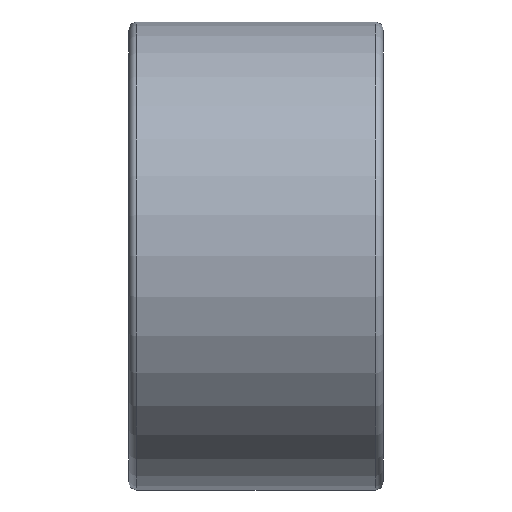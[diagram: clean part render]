
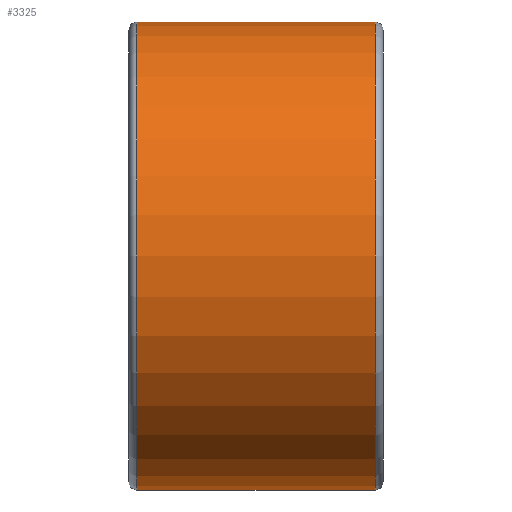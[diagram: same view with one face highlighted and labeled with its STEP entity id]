
A CAD part, front view. The second image highlights one B-rep face of the part: STEP entity #3325.
In plain terms, the highlighted cylindrical face has radius 17.5 mm (diameter 35 mm), a full revolution.
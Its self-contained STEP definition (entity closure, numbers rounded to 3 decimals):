
#684=LINE('',#9116,#824);
#824=VECTOR('',#4321,17.5);
#852=CYLINDRICAL_SURFACE('',#3696,17.5);
#1031=FACE_OUTER_BOUND('',#1220,.T.);
#1220=EDGE_LOOP('',(#3091,#3092,#3093,#3094,#3095,#3096));
#1340=CIRCLE('',#3693,17.5);
#1341=CIRCLE('',#3694,17.5);
#1343=CIRCLE('',#3697,17.5);
#1344=CIRCLE('',#3698,17.5);
#1657=VERTEX_POINT('',#9107);
#1658=VERTEX_POINT('',#9108);
#1659=VERTEX_POINT('',#9113);
#1660=VERTEX_POINT('',#9114);
#2137=EDGE_CURVE('',#1657,#1658,#1340,.T.);
#2138=EDGE_CURVE('',#1658,#1657,#1341,.T.);
#2140=EDGE_CURVE('',#1659,#1660,#1343,.T.);
#2141=EDGE_CURVE('',#1659,#1658,#684,.T.);
#2142=EDGE_CURVE('',#1660,#1659,#1344,.T.);
#3091=ORIENTED_EDGE('',*,*,#2140,.F.);
#3092=ORIENTED_EDGE('',*,*,#2141,.T.);
#3093=ORIENTED_EDGE('',*,*,#2137,.F.);
#3094=ORIENTED_EDGE('',*,*,#2138,.F.);
#3095=ORIENTED_EDGE('',*,*,#2141,.F.);
#3096=ORIENTED_EDGE('',*,*,#2142,.F.);
#3325=ADVANCED_FACE('',(#1031),#852,.T.);
#3693=AXIS2_PLACEMENT_3D('',#9109,#4311,#4312);
#3694=AXIS2_PLACEMENT_3D('',#9110,#4313,#4314);
#3696=AXIS2_PLACEMENT_3D('',#9112,#4317,#4318);
#3697=AXIS2_PLACEMENT_3D('',#9115,#4319,#4320);
#3698=AXIS2_PLACEMENT_3D('',#9117,#4322,#4323);
#4311=DIRECTION('center_axis',(-1.,0.,0.));
#4312=DIRECTION('ref_axis',(0.,-1.,0.));
#4313=DIRECTION('center_axis',(-1.,0.,0.));
#4314=DIRECTION('ref_axis',(0.,-1.,0.));
#4317=DIRECTION('center_axis',(1.,0.,0.));
#4318=DIRECTION('ref_axis',(0.,1.,0.));
#4319=DIRECTION('center_axis',(1.,0.,0.));
#4320=DIRECTION('ref_axis',(0.,-1.,0.));
#4321=DIRECTION('',(-1.,0.,0.));
#4322=DIRECTION('center_axis',(1.,0.,0.));
#4323=DIRECTION('ref_axis',(0.,-1.,0.));
#9107=CARTESIAN_POINT('',(-8.9,0.,17.5));
#9108=CARTESIAN_POINT('',(-8.9,-17.5,0.));
#9109=CARTESIAN_POINT('Origin',(-8.9,0.,0.));
#9110=CARTESIAN_POINT('Origin',(-8.9,0.,0.));
#9112=CARTESIAN_POINT('Origin',(0.,0.,
0.));
#9113=CARTESIAN_POINT('',(8.9,-17.5,0.));
#9114=CARTESIAN_POINT('',(8.9,0.,17.5));
#9115=CARTESIAN_POINT('Origin',(8.9,0.,0.));
#9116=CARTESIAN_POINT('',(0.,-17.5,0.));
#9117=CARTESIAN_POINT('Origin',(8.9,0.,0.));
